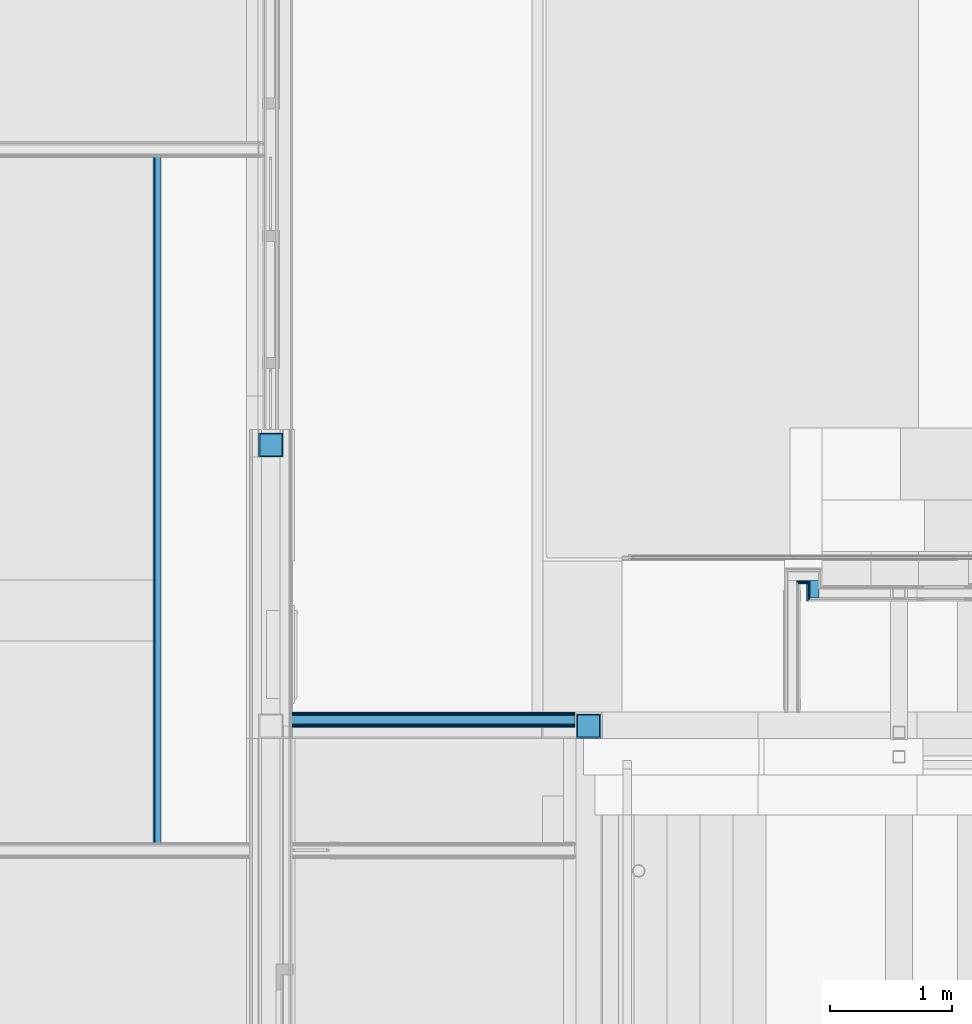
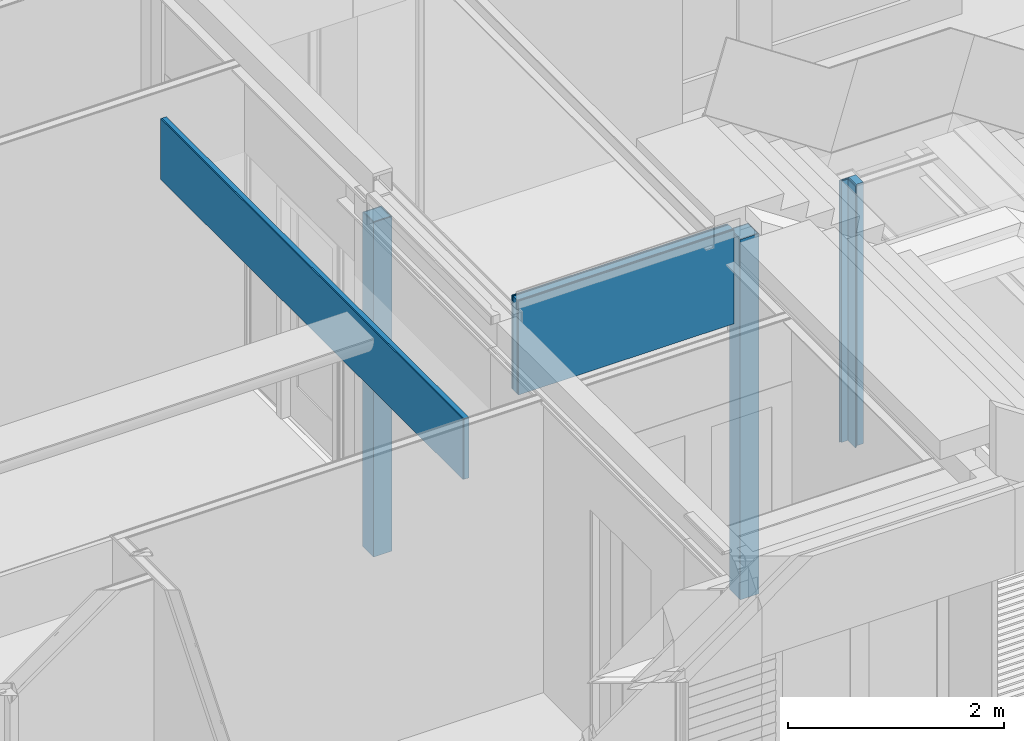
# One storey, part 48 of 165: 16 building element parts, 6 elements without a shape of their own.
"""IFC2X3 building model written with IfcOpenShell, lengths in millimetres."""

from ifc_helpers import new_model, entity, si_unit, converted_unit, derived_unit, money_unit, direction, frame, origin_with_axes, place, context, subcontext, project, spatial, faceted_brep, material, type_object, element, aggregate, save


model = new_model("IFC2X3")

# Units and contexts
model_context = context("Model", 3, precision=0.01, world=origin_with_axes(), true_north=direction((0.0, 1.0)))
body_context = subcontext(model_context, "Body", "Model", "MODEL_VIEW")
ifc_project = project(units=[si_unit("LENGTHUNIT", "METRE", prefix="MILLI"), si_unit("AREAUNIT", "SQUARE_METRE"), si_unit("VOLUMEUNIT", "CUBIC_METRE"), converted_unit("PLANEANGLEUNIT", "DEGREE", entity("IfcPlaneAngleMeasure", 0.0174532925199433), si_unit("PLANEANGLEUNIT", "RADIAN"), dimensions=[0, 0, 0, 0, 0, 0, 0]), money_unit("EUR"), converted_unit("TIMEUNIT", "Year", entity("IfcTimeMeasure", 31556926.0), si_unit("TIMEUNIT", "SECOND"), dimensions=[0, 0, 1, 0, 0, 0, 0]), si_unit("MASSUNIT", "GRAM", prefix="KILO"), si_unit("THERMODYNAMICTEMPERATUREUNIT", "DEGREE_CELSIUS"), si_unit("LUMINOUSINTENSITYUNIT", "LUMEN"), si_unit("ENERGYUNIT", "JOULE", prefix="MEGA"), derived_unit("THERMALCONDUCTANCEUNIT", [(si_unit("POWERUNIT", "WATT"), 1), (si_unit("LENGTHUNIT", "METRE"), -1), (si_unit("THERMODYNAMICTEMPERATUREUNIT", "KELVIN"), -1)]), derived_unit("SPECIFICHEATCAPACITYUNIT", [(si_unit("ENERGYUNIT", "JOULE"), 1), (si_unit("MASSUNIT", "GRAM", prefix="KILO"), -1), (si_unit("THERMODYNAMICTEMPERATUREUNIT", "KELVIN"), -1)]), derived_unit("MASSDENSITYUNIT", [(si_unit("MASSUNIT", "GRAM", prefix="KILO"), 1), (si_unit("VOLUMEUNIT", "CUBIC_METRE"), -1)])], contexts=[model_context])

# Site, building, storey
site_placement = place(None, origin_with_axes())
site = spatial("IfcSite", under=ifc_project, at=site_placement, Name="Site", CompositionType="ELEMENT")
building_placement = place(site_placement, origin_with_axes())
building = spatial("IfcBuilding", under=site, at=building_placement, Name="Naam gebouw", CompositionType="ELEMENT")
storey_placement = place(building_placement, origin_with_axes())
storey = spatial("IfcBuildingStorey", under=building, at=storey_placement, Name="Begane grond", CompositionType="ELEMENT", Elevation=0.0)

# Column, building element parts
column_type = type_object("IfcColumnType", Name="200X200X10 200 x 200", PredefinedType="COLUMN")
column_1_placement = place(storey_placement, frame((11450.00000000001, 4579.999999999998, -480.0), z_axis=(0.0, 0.0, 1.0), x_axis=(1.0, 0.0, 0.0)))
column_1 = element("IfcColumn", 1, at=column_1_placement, inside=storey, type_object=column_type, Name="28_Kolom-x", ObjectType="COLUMN")
ifc_material_1 = material(Name="Metaal - Staal C")
building_element_part_1_placement = place(column_1_placement, origin_with_axes())
building_element_part_1 = element("IfcBuildingElementPart", 2, at=building_element_part_1_placement, material=ifc_material_1, Name="Metaal - Staal C", context=body_context, shape_type="Brep", body=[
    faceted_brep([(-99.99999999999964, -99.99999999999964, 0.0), (99.99999999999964, -99.99999999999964, 0.0), (99.99999999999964, -99.99999999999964, 4079.999999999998), (-99.99999999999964, -99.99999999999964, 4079.999999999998), (-99.99999999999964, 99.99999999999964, 0.0), (99.99999999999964, 99.99999999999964, 0.0), (-89.99999999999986, -89.99999999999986, 0.0), (89.99999999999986, -89.99999999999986, 0.0), (89.99999999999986, 89.99999999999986, 0.0), (-89.99999999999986, 89.99999999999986, 0.0), (99.99999999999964, 99.99999999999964, 4079.999999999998), (-99.99999999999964, 99.99999999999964, 4079.999999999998), (-89.99999999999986, -89.99999999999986, 4079.999999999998), (-89.99999999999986, 89.99999999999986, 4079.999999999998), (89.99999999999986, 89.99999999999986, 4079.999999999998), (89.99999999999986, -89.99999999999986, 4079.999999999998)], [[[0, 1, 2, 3]], [[0, 4, 5, 1], [6, 7, 8, 9]], [[1, 5, 10, 2]], [[3, 2, 10, 11], [12, 13, 14, 15]], [[4, 0, 3, 11]], [[5, 4, 11, 10]], [[7, 6, 12, 15]], [[8, 7, 15, 14]], [[9, 8, 14, 13]], [[6, 9, 13, 12]]]),
])
ifc_material_2 = material(Name="Beton gewapend C")
building_element_part_2_placement = place(column_1_placement, origin_with_axes())
building_element_part_2 = element("IfcBuildingElementPart", 3, at=building_element_part_2_placement, material=ifc_material_2, Name="Beton gewapend C", context=body_context, shape_type="Brep", body=[
    faceted_brep([(-89.99999999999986, 89.99999999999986, 3770.000000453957), (89.99999999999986, 89.99999999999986, 3770.000000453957), (89.99999999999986, 89.99999999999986, 0.0), (-89.99999999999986, 89.99999999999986, 0.0), (89.99999999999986, -89.99999999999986, 3770.000000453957), (-89.99999999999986, -89.99999999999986, 3770.000000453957), (89.99999999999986, -89.99999999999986, 0.0), (-89.99999999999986, -89.99999999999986, 0.0)], [[[0, 1, 2, 3]], [[4, 1, 0, 5]], [[1, 4, 6, 2]], [[6, 7, 3, 2]], [[5, 0, 3, 7]], [[4, 5, 7, 6]]]),
    faceted_brep([(89.99999999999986, 89.99999999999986, 4020.000000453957), (89.99999999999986, -89.99999999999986, 4020.000000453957), (89.99999999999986, -89.99999999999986, 3785.000000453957), (89.99999999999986, 89.99999999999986, 3785.000000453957), (-89.99999999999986, 89.99999999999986, 4020.000000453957), (-89.99999999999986, -89.99999999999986, 4020.000000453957), (-89.99999999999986, -89.99999999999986, 3785.000000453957), (-89.99999999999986, 89.99999999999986, 3785.000000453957)], [[[0, 1, 2, 3]], [[1, 0, 4, 5]], [[1, 5, 6, 2]], [[7, 3, 2, 6]], [[4, 0, 3, 7]], [[5, 4, 7, 6]]]),
    faceted_brep([(89.99999999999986, -89.99999999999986, 4050.000000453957), (89.99999999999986, 89.99999999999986, 4050.000000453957), (89.99999999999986, 89.99999999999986, 4079.999999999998), (89.99999999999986, -89.99999999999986, 4079.999999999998), (-89.99999999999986, 89.99999999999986, 4050.000000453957), (-89.99999999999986, -89.99999999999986, 4050.000000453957), (-89.99999999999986, 89.99999999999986, 4079.999999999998), (-89.99999999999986, -89.99999999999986, 4079.999999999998)], [[[0, 1, 2, 3]], [[4, 1, 0, 5]], [[1, 4, 6, 2]], [[6, 7, 3, 2]], [[5, 0, 3, 7]], [[4, 5, 7, 6]]]),
])
aggregate(column_1, [building_element_part_1, building_element_part_2])

# Proxy, building element parts
building_element_proxy_type_1 = type_object("IfcBuildingElementProxyType", Name="22 Metal stud 62.5 plafond 63", PredefinedType="NOTDEFINED")
proxy_1_placement = place(storey_placement, frame((7887.500000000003, 3624.995712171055, 2600.0), z_axis=(0.0, 0.0, 1.0), x_axis=(0.0, 1.0, 0.0)))
proxy_1 = element("IfcBuildingElementProxy", 4, at=proxy_1_placement, inside=storey, type_object=building_element_proxy_type_1, Name="_Wand-x")
ifc_material_3 = material(Name="Gipsplaat")
building_element_part_3_placement = place(proxy_1_placement, origin_with_axes())
building_element_part_3 = element("IfcBuildingElementPart", 5, at=building_element_part_3_placement, material=ifc_material_3, Name="Gipsplaat", context=body_context, shape_type="Brep", body=[
    faceted_brep([(0.0, -12.50000000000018, 12.00000000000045), (5610.004403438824, -12.50000000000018, 12.00000000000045), (5610.004403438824, -12.50000000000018, 700.0000000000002), (0.0, -12.50000000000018, 700.0000000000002), (5610.004403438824, 0.0, 12.00000000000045), (0.0, 0.0, 12.00000000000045), (5610.004403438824, 0.0, 700.0000000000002), (0.0, 0.0, 700.0000000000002)], [[[0, 1, 2, 3]], [[4, 1, 0, 5]], [[1, 4, 6, 2]], [[3, 2, 6, 7]], [[5, 0, 3, 7]], [[4, 5, 7, 6]]]),
])
ifc_material_4 = material(Name="ALG - LICHTE SCHEIDINGSWAND")
building_element_part_4_placement = place(proxy_1_placement, origin_with_axes())
building_element_part_4 = element("IfcBuildingElementPart", 6, at=building_element_part_4_placement, material=ifc_material_4, Name="ALG - LICHTE SCHEIDINGSWAND", context=body_context, shape_type="Brep", body=[
    faceted_brep([(0.0, -62.5, 12.00000000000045), (5610.004403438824, -62.5, 12.00000000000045), (5610.004403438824, -62.5, 700.0000000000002), (0.0, -62.5, 700.0000000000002), (5610.004403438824, -12.50000000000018, 12.00000000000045), (0.0, -12.50000000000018, 12.00000000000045), (5610.004403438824, -12.50000000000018, 700.0000000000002), (0.0, -12.50000000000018, 700.0000000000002)], [[[0, 1, 2, 3]], [[4, 1, 0, 5]], [[1, 4, 6, 2]], [[3, 2, 6, 7]], [[5, 0, 3, 7]], [[4, 5, 7, 6]]]),
])
aggregate(proxy_1, [building_element_part_3, building_element_part_4])

# Column, building element parts
column_2_placement = place(storey_placement, frame((8850.000000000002, 6879.999999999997, -480.0), z_axis=(0.0, 0.0, 1.0), x_axis=(1.0, 0.0, 0.0)))
column_2 = element("IfcColumn", 7, at=column_2_placement, inside=storey, type_object=column_type, Name="28_Kolom-x", ObjectType="COLUMN")
building_element_part_5_placement = place(column_2_placement, origin_with_axes())
building_element_part_5 = element("IfcBuildingElementPart", 8, at=building_element_part_5_placement, material=ifc_material_1, Name="Metaal - Staal C", context=body_context, shape_type="Brep", body=[
    faceted_brep([(-99.99999999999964, -99.99999999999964, 0.0), (99.99999999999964, -99.99999999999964, 0.0), (99.99999999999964, -99.99999999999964, 3790.0), (-99.99999999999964, -99.99999999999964, 3790.0), (-99.99999999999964, 99.99999999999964, 0.0), (99.99999999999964, 99.99999999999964, 0.0), (-89.99999999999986, -89.99999999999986, 0.0), (89.99999999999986, -89.99999999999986, 0.0), (89.99999999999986, 89.99999999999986, 0.0), (-89.99999999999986, 89.99999999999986, 0.0), (99.99999999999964, 99.99999999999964, 3790.0), (-99.99999999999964, 99.99999999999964, 3790.0), (-89.99999999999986, -89.99999999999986, 3790.0), (-89.99999999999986, 89.99999999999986, 3790.0), (89.99999999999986, 89.99999999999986, 3790.0), (89.99999999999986, -89.99999999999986, 3790.0)], [[[0, 1, 2, 3]], [[0, 4, 5, 1], [6, 7, 8, 9]], [[1, 5, 10, 2]], [[3, 2, 10, 11], [12, 13, 14, 15]], [[4, 0, 3, 11]], [[5, 4, 11, 10]], [[7, 6, 12, 15]], [[8, 7, 15, 14]], [[9, 8, 14, 13]], [[6, 9, 13, 12]]]),
])
building_element_part_6_placement = place(column_2_placement, origin_with_axes())
building_element_part_6 = element("IfcBuildingElementPart", 9, at=building_element_part_6_placement, material=ifc_material_2, Name="Beton gewapend C", context=body_context, shape_type="Brep", body=[
    faceted_brep([(-89.99999999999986, 89.99999999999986, 3760.000002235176), (89.99999999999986, 89.99999999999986, 3760.000002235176), (89.99999999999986, 89.99999999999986, 0.0), (-89.99999999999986, 89.99999999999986, 0.0), (89.99999999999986, -89.99999999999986, 3760.000002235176), (-89.99999999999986, -89.99999999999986, 3760.000002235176), (89.99999999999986, -89.99999999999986, 0.0), (-89.99999999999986, -89.99999999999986, 0.0)], [[[0, 1, 2, 3]], [[4, 1, 0, 5]], [[1, 4, 6, 2]], [[6, 7, 3, 2]], [[5, 0, 3, 7]], [[4, 5, 7, 6]]]),
    faceted_brep([(89.99999999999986, -89.99999999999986, 3785.000002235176), (89.99999999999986, 89.99999999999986, 3785.000002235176), (89.99999999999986, 89.99999999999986, 3790.0), (89.99999999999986, -89.99999999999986, 3790.0), (-89.99999999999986, 89.99999999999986, 3785.000002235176), (-89.99999999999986, -89.99999999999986, 3785.000002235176), (-89.99999999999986, 89.99999999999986, 3790.0), (-89.99999999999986, -89.99999999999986, 3790.0)], [[[0, 1, 2, 3]], [[4, 1, 0, 5]], [[1, 4, 6, 2]], [[6, 7, 3, 2]], [[5, 0, 3, 7]], [[4, 5, 7, 6]]]),
])
aggregate(column_2, [building_element_part_5, building_element_part_6])

# Proxy, building element parts
building_element_proxy_type_2 = type_object("IfcBuildingElementProxyType", Name="22 Metal stud 125 gips 125", PredefinedType="NOTDEFINED")
proxy_2_placement = place(storey_placement, frame((11336.0, 4693.999999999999, 2600.0), z_axis=(0.0, 0.0, 1.0), x_axis=(-1.0, 0.0, 0.0)))
proxy_2 = element("IfcBuildingElementProxy", 10, at=proxy_2_placement, inside=storey, type_object=building_element_proxy_type_2, Name="_Wand-x")
building_element_part_7_placement = place(proxy_2_placement, origin_with_axes())
building_element_part_7 = element("IfcBuildingElementPart", 11, at=building_element_part_7_placement, material=ifc_material_3, Name="Gipsplaat", context=body_context, shape_type="Brep", body=[
    faceted_brep([(2311.000000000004, 125.0, 0.0), (2311.000000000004, 112.4999999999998, 0.0), (0.0, 112.4999999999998, 0.0), (0.0, 125.0, 0.0), (2311.000000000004, 125.0, 1060.0), (2311.000000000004, 112.4999999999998, 1060.0), (0.0, 112.4999999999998, 1060.0), (0.0, 125.0, 1060.0)], [[[0, 1, 2, 3]], [[0, 4, 5, 1]], [[1, 5, 6, 2]], [[3, 2, 6, 7]], [[4, 0, 3, 7]], [[5, 4, 7, 6]]]),
])
building_element_part_8_placement = place(proxy_2_placement, origin_with_axes())
building_element_part_8 = element("IfcBuildingElementPart", 12, at=building_element_part_8_placement, material=ifc_material_3, Name="Gipsplaat", context=body_context, shape_type="Brep", body=[
    faceted_brep([(2311.000000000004, 12.50000000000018, 0.0), (2311.000000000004, 0.0, 0.0), (0.0, 0.0, 0.0), (0.0, 12.50000000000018, 0.0), (2311.000000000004, 12.50000000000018, 1060.0), (2311.000000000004, 0.0, 1060.0), (0.0, 0.0, 1060.0), (0.0, 12.50000000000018, 1060.0)], [[[0, 1, 2, 3]], [[0, 4, 5, 1]], [[1, 5, 6, 2]], [[3, 2, 6, 7]], [[4, 0, 3, 7]], [[5, 4, 7, 6]]]),
])
building_element_part_9_placement = place(proxy_2_placement, origin_with_axes())
building_element_part_9 = element("IfcBuildingElementPart", 13, at=building_element_part_9_placement, material=ifc_material_3, Name="Gipsplaat", context=body_context, shape_type="Brep", body=[
    faceted_brep([(2311.000000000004, 112.4999999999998, 0.0), (2311.000000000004, 99.99999999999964, 0.0), (0.0, 99.99999999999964, 0.0), (0.0, 112.4999999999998, 0.0), (2311.000000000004, 112.4999999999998, 1060.0), (2311.000000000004, 99.99999999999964, 1060.0), (0.0, 99.99999999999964, 1060.0), (0.0, 112.4999999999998, 1060.0)], [[[0, 1, 2, 3]], [[0, 4, 5, 1]], [[1, 5, 6, 2]], [[3, 2, 6, 7]], [[4, 0, 3, 7]], [[5, 4, 7, 6]]]),
])
building_element_part_10_placement = place(proxy_2_placement, origin_with_axes())
building_element_part_10 = element("IfcBuildingElementPart", 14, at=building_element_part_10_placement, material=ifc_material_4, Name="ALG - LICHTE SCHEIDINGSWAND", context=body_context, shape_type="Brep", body=[
    faceted_brep([(2311.000000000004, 99.99999999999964, 0.0), (2311.000000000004, 24.99999999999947, 0.0), (0.0, 25.00000000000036, 0.0), (0.0, 99.99999999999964, 0.0), (2311.000000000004, 99.99999999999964, 1060.0), (2311.000000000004, 25.00000000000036, 1060.0), (0.0, 25.00000000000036, 1060.0), (0.0, 99.99999999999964, 1060.0)], [[[0, 1, 2, 3]], [[0, 4, 5, 1]], [[1, 5, 6, 2]], [[3, 2, 6, 7]], [[4, 0, 3, 7]], [[5, 4, 7, 6]]]),
])
building_element_part_11_placement = place(proxy_2_placement, origin_with_axes())
building_element_part_11 = element("IfcBuildingElementPart", 15, at=building_element_part_11_placement, material=ifc_material_3, Name="Gipsplaat", context=body_context, shape_type="Brep", body=[
    faceted_brep([(2311.000000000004, 24.99999999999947, 0.0), (2311.000000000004, 12.50000000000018, 0.0), (0.0, 12.50000000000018, 0.0), (0.0, 25.00000000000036, 0.0), (2311.000000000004, 25.00000000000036, 1060.0), (2311.000000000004, 12.50000000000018, 1060.0), (0.0, 12.50000000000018, 1060.0), (0.0, 25.00000000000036, 1060.0)], [[[0, 1, 2, 3]], [[0, 4, 5, 1]], [[1, 5, 6, 2]], [[3, 2, 6, 7]], [[4, 0, 3, 7]], [[5, 4, 7, 6]]]),
])
aggregate(proxy_2, [building_element_part_7, building_element_part_8, building_element_part_9, building_element_part_10, building_element_part_11])

building_element_proxy_type_3 = type_object("IfcBuildingElementProxyType", Name="22 Metal stud 125 oregon pine 125", PredefinedType="NOTDEFINED")
proxy_3_placement = place(storey_placement, frame((13053.57016167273, 5869.999789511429, -100.0), z_axis=(0.0, 0.0, 1.0), x_axis=(0.999999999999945, 3.31845037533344e-07, 0.0)))
proxy_3 = element("IfcBuildingElementProxy", 16, at=proxy_3_placement, inside=storey, type_object=building_element_proxy_type_3, Name="_Wand-x")
building_element_part_12_placement = place(proxy_3_placement, origin_with_axes())
building_element_part_12 = element("IfcBuildingElementPart", 17, at=building_element_part_12_placement, material=ifc_material_3, Name="Gipsplaat", context=body_context, shape_type="Brep", body=[
    faceted_brep([(99.9999668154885, -100.0000331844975, 2960.0), (204.9999627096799, -100.0000680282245, 2960.0), (204.9999627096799, -100.0000680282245, 0.0), (99.9999668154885, -100.0000331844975, 0.0), (204.9999585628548, -112.5000680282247, 2960.0), (99.99996266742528, -112.5000331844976, 2960.0), (204.9999585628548, -112.5000680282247, 0.0), (99.99996266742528, -112.5000331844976, 0.0)], [[[0, 1, 2, 3]], [[4, 1, 0, 5]], [[1, 4, 6, 2]], [[2, 6, 7, 3]], [[5, 0, 3, 7]], [[4, 5, 7, 6]]]),
])
building_element_part_13_placement = place(proxy_3_placement, origin_with_axes())
building_element_part_13 = element("IfcBuildingElementPart", 18, at=building_element_part_13_placement, material=ifc_material_3, Name="Gipsplaat", context=body_context, shape_type="Brep", body=[
    faceted_brep([(112.4999626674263, -112.50003733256, 2960.0), (192.4999585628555, -112.5000638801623, 2960.0), (192.4999585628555, -112.5000638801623, 0.0), (112.4999626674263, -112.50003733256, 0.0), (192.4999544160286, -125.0000638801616, 2960.0), (112.4999585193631, -125.0000373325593, 2960.0), (192.4999544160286, -125.0000638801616, 0.0), (112.4999585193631, -125.0000373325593, 0.0)], [[[0, 1, 2, 3]], [[4, 1, 0, 5]], [[1, 4, 6, 2]], [[2, 6, 7, 3]], [[5, 0, 3, 7]], [[4, 5, 7, 6]]]),
])
aggregate(proxy_3, [building_element_part_12, building_element_part_13])

proxy_4_placement = place(storey_placement, frame((13358.57015755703, 5869.999890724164, -100.0), z_axis=(0.0, 0.0, 1.0), x_axis=(0.0, -1.0, 0.0)))
proxy_4 = element("IfcBuildingElementProxy", 19, at=proxy_4_placement, inside=storey, type_object=building_element_proxy_type_3, Name="_Wand-x")
building_element_part_14_placement = place(proxy_4_placement, origin_with_axes())
building_element_part_14 = element("IfcBuildingElementPart", 20, at=building_element_part_14_placement, material=ifc_material_4, Name="ALG - LICHTE SCHEIDINGSWAND", context=body_context, shape_type="Brep", body=[
    faceted_brep([(100.0000331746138, -100.000000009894, 2960.0), (100.000008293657, -25.00000000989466, 2960.0), (100.000008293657, -25.00000000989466, 0.0), (100.0000331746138, -100.000000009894, 0.0), (239.9998865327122, -25.00000002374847, 2960.0), (239.9998865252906, -100.0000000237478, 2960.0), (239.9998865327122, -25.00000002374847, 0.0), (239.9998865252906, -100.0000000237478, 0.0)], [[[0, 1, 2, 3]], [[4, 1, 0, 5]], [[1, 4, 6, 2]], [[6, 7, 3, 2]], [[5, 0, 3, 7]], [[4, 5, 7, 6]]]),
])
building_element_part_15_placement = place(proxy_4_placement, origin_with_axes())
building_element_part_15 = element("IfcBuildingElementPart", 21, at=building_element_part_15_placement, material=ifc_material_3, Name="Gipsplaat", context=body_context, shape_type="Brep", body=[
    faceted_brep([(112.50003732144, -112.5000000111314, 2960.0), (112.5000331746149, -100.0000000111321, 2960.0), (112.5000331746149, -100.0000000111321, 0.0), (112.50003732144, -112.5000000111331, 0.0), (252.4998865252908, -100.0000000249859, 2960.0), (252.4998865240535, -112.5000000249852, 2960.0), (252.4998865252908, -100.0000000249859, 0.0), (252.4998865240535, -112.5000000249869, 0.0)], [[[0, 1, 2, 3]], [[4, 1, 0, 5]], [[1, 4, 6, 2]], [[6, 7, 3, 2]], [[5, 0, 3, 7]], [[4, 5, 7, 6]]]),
])
building_element_part_16_placement = place(proxy_4_placement, origin_with_axes())
building_element_part_16 = element("IfcBuildingElementPart", 22, at=building_element_part_16_placement, material=ifc_material_3, Name="Gipsplaat", context=body_context, shape_type="Brep", body=[
    faceted_brep([(125.000041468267, -125.0000000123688, 2960.0), (125.0000373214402, -112.5000000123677, 2960.0), (125.0000373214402, -112.5000000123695, 0.0), (125.000041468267, -125.0000000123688, 0.0), (264.9998865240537, -112.5000000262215, 2960.0), (264.9998865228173, -125.0000000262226, 2960.0), (264.9998865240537, -112.5000000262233, 0.0), (264.9998865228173, -125.0000000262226, 0.0)], [[[0, 1, 2, 3]], [[4, 1, 0, 5]], [[1, 4, 6, 2]], [[6, 7, 3, 2]], [[5, 0, 3, 7]], [[4, 5, 7, 6]]]),
])
aggregate(proxy_4, [building_element_part_14, building_element_part_15, building_element_part_16])

save(model, "model.ifc")
